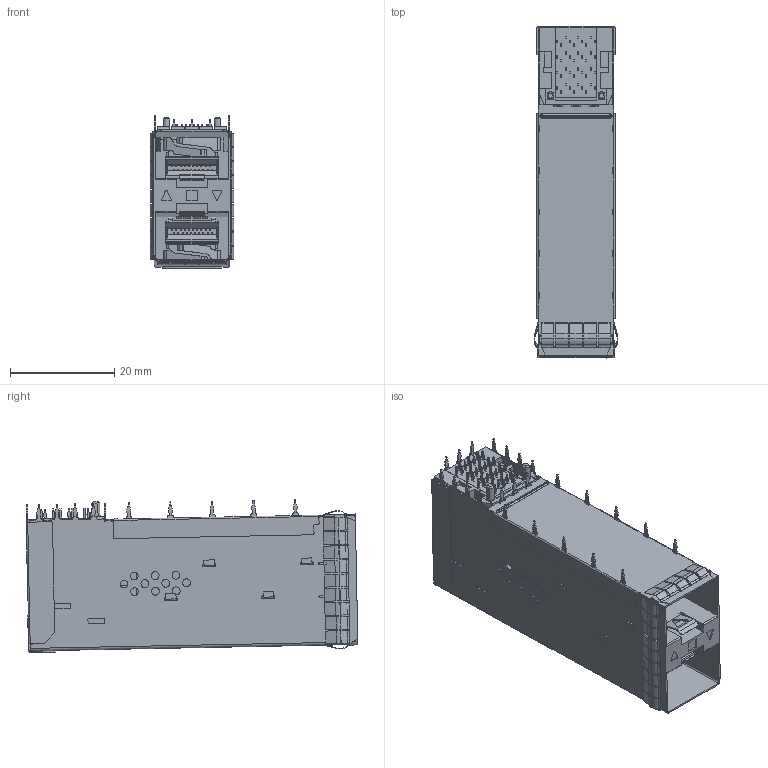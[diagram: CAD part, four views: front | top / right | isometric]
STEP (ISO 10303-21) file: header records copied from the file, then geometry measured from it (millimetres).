
FILE_DESCRIPTION((''),'2;1');
FILE_NAME('SFP28-2X1-3D-OUTER-LP-10732321F','2023-08-30T',('czt12321'),(''),'PRO/ENGINEER BY PARAMETRIC TECHNOLOGY CORPORATION, 2009440','PRO/ENGINEER BY PARAMETRIC TECHNOLOGY CORPORATION, 2009440','');
FILE_SCHEMA(('CONFIG_CONTROL_DESIGN'));
Products named in the file (1): SFP28-2X1-3D-OUTER-LP-10732321F
Bounding box: 16.06 x 63.74 x 29.41 mm (x, y, z)
Volume: 11125.4 mm3; surface area: 15256 mm2
Topology: 1 solids, 1 shells, 3242 faces, 9155 edges, 5955 vertices
Faces by surface type: plane 1948, cylinder 1230, bspline 58, cone 4, torus 2
Entity records: 108996 total; most frequent: CARTESIAN_POINT 23063, ORIENTED_EDGE 18310, DIRECTION 17885, EDGE_CURVE 9155, VECTOR 6109, LINE 6109, VERTEX_POINT 5955, AXIS2_PLACEMENT_3D 5888
